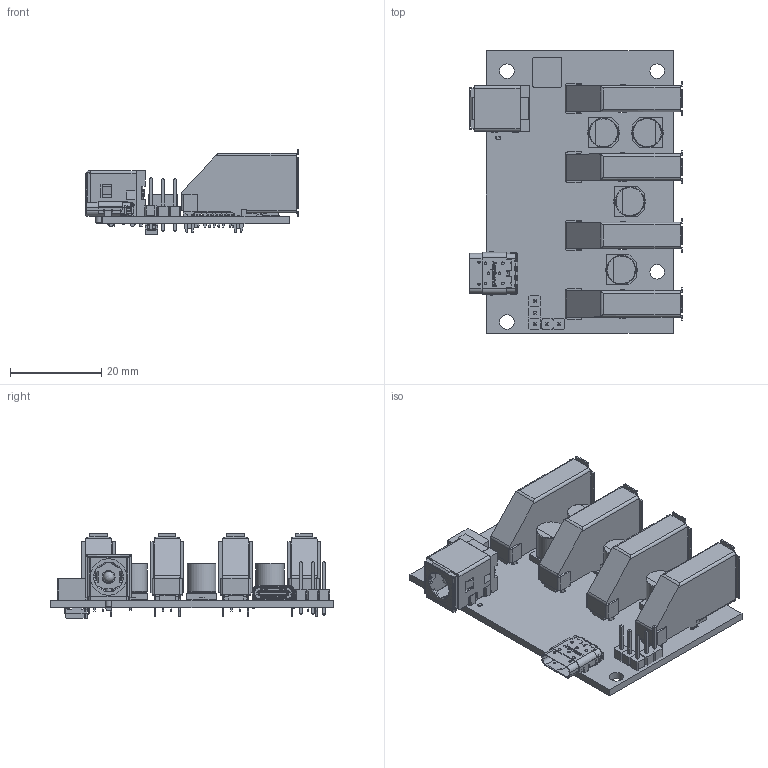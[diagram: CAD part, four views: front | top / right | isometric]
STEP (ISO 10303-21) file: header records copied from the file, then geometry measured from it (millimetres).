
FILE_DESCRIPTION(/* description */ ('Open CASCADE Model'),/* implementation_level */ '2;1');
FILE_NAME(/* name */ 'CG-3590X4AX1C-CAD.step',/* time_stamp */ '2025-04-07T13:29:52-04:00',/* author */ (''),/* organization */ (''),/* preprocessor_version */ 'ST-DEVELOPER v20.1',/* originating_system */ 'Autodesk Translation Framework v14.4.0.0',/* authorisation */ '');
FILE_SCHEMA (('AUTOMOTIVE_DESIGN { 1 0 10303 214 3 1 1 }'));
Products named in the file (50): PCB; BoardCG-3590X4AX1C; Open CASCADE STEP translator 7.5 2.1.1; J3CG-3590X4AX1C; 61300211121; 61300211121_1; 61300211121_2; J2CG-3590X4AX1C; User Library-Header_Male_3Pin; PinArray; BodyArray; C12CCG-3590X4AX1C; CN1DCG-3590X4AX1C; CN1CCG-3590X4AX1C; CN1BCG-3590X4AX1C; CN1ACG-3590X4AX1C; usb3_a-usb3_a-e; J_IN1CG-3590X4AX1C; pj-082bh; pj-082bh_1; pj-082bh_2; pj-082bh_3; pj-082bh_4; pj-082bh_5; pj-082bh_6; pj-082bh_7; pj-082bh_8; pj-082bh_9; pj-082bh_10; pj-082bh_11; J1CG-3590X4AX1C; C12401826_2; MSBR-1; _12401826E412A_ASM_ASM; C12DCG-3590X4AX1C; C12BCG-3590X4AX1C; C12ACG-3590X4AX1C; User Library-CC0607; LED1CG-3590X4AX1C; User Library-LED_1006_R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
Assembly tree (55 placements, depth 4):
  PCB
    BoardCG-3590X4AX1C
      Open CASCADE STEP translator 7.5 2.1.1
    J3CG-3590X4AX1C
      61300211121
      61300211121_1
      61300211121_2
    J2CG-3590X4AX1C
      User Library-Header_Male_3Pin
        PinArray
        BodyArray
    C12CCG-3590X4AX1C
      User Library-CC0607
    CN1DCG-3590X4AX1C
      usb3_a-usb3_a-e
    CN1CCG-3590X4AX1C
      usb3_a-usb3_a-e
    CN1BCG-3590X4AX1C
      usb3_a-usb3_a-e
    CN1ACG-3590X4AX1C
      usb3_a-usb3_a-e
    J_IN1CG-3590X4AX1C
      pj-082bh
      pj-082bh_1
      pj-082bh_2
      pj-082bh_3
      pj-082bh_4
      pj-082bh_5
      pj-082bh_6
      pj-082bh_7
      pj-082bh_8
      pj-082bh_9
      pj-082bh_10
      pj-082bh_11
    J1CG-3590X4AX1C
      C12401826_2
        MSBR-1
        _12401826E412A_ASM_ASM
    C12DCG-3590X4AX1C
      User Library-CC0607
    C12BCG-3590X4AX1C
      User Library-CC0607
    C12ACG-3590X4AX1C
      User Library-CC0607
    LED1CG-3590X4AX1C
      User Library-LED_1006_R
        Rot
        Cut006
        Cut005
        #171236
        Pad001
    L1CG-3590X4AX1C
      6436839312
        Extruded
    D3CG-3590X4AX1C
      DO-214AC(SMA)
Bounding box: 46.72 x 62 x 18.59 mm (x, y, z)
Volume: 11463.9 mm3; surface area: 18683.8 mm2
Topology: 41 solids, 56 shells, 6795 faces, 18507 edges, 11953 vertices
Faces by surface type: plane 5353, cylinder 1164, cone 105, torus 102, bspline 58, sphere 13
Full cylindrical faces by diameter (mm): 0.4 x1, 0.5 x6, 0.6 x16, 0.65 x1, 0.7 x36, 1 x16, 1.1 x5, 1.2 x2, 1.35 x1, 1.4 x1, 2 x1, 2.4 x1, 2.8 x2, 2.85 x2, 3.2 x4, 5.7 x4, 6.3 x8, 6.4 x4
Entity records: 171476 total; most frequent: CARTESIAN_POINT 33236, ORIENTED_EDGE 28226, DIRECTION 26801, EDGE_CURVE 14113, LINE 11443, VECTOR 11443, VERTEX_POINT 9056, AXIS2_PLACEMENT_3D 7679
